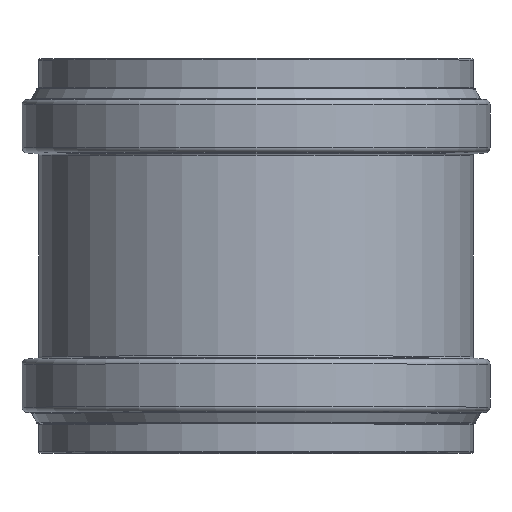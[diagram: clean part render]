
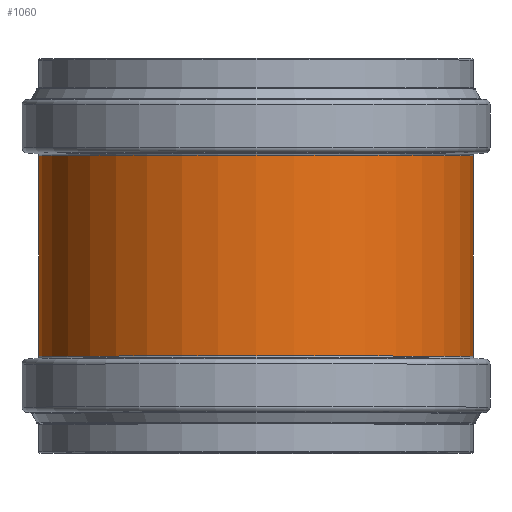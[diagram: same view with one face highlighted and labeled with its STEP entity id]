
A CAD part, top view. The second image highlights one B-rep face of the part: STEP entity #1060.
In plain terms, the highlighted cylindrical face has radius 167.35 mm (diameter 334.7 mm), a full revolution.
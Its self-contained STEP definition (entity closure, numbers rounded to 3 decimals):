
#60=LINE('',#1991,#88);
#88=VECTOR('',#1629,167.35);
#104=CYLINDRICAL_SURFACE('',#1249,167.35);
#152=FACE_OUTER_BOUND('',#215,.T.);
#215=EDGE_LOOP('',(#902,#903,#904,#905,#906,#907));
#335=CIRCLE('',#1247,167.35);
#336=CIRCLE('',#1248,167.35);
#337=CIRCLE('',#1250,167.35);
#338=CIRCLE('',#1251,167.35);
#454=VERTEX_POINT('',#1981);
#455=VERTEX_POINT('',#1983);
#456=VERTEX_POINT('',#1987);
#457=VERTEX_POINT('',#1988);
#608=EDGE_CURVE('',#455,#454,#335,.T.);
#609=EDGE_CURVE('',#454,#455,#336,.T.);
#610=EDGE_CURVE('',#456,#457,#337,.T.);
#611=EDGE_CURVE('',#457,#456,#338,.T.);
#612=EDGE_CURVE('',#457,#455,#60,.T.);
#902=ORIENTED_EDGE('',*,*,#610,.F.);
#903=ORIENTED_EDGE('',*,*,#611,.F.);
#904=ORIENTED_EDGE('',*,*,#612,.T.);
#905=ORIENTED_EDGE('',*,*,#608,.T.);
#906=ORIENTED_EDGE('',*,*,#609,.T.);
#907=ORIENTED_EDGE('',*,*,#612,.F.);
#1060=ADVANCED_FACE('',(#152),#104,.T.);
#1247=AXIS2_PLACEMENT_3D('',#1984,#1619,#1620);
#1248=AXIS2_PLACEMENT_3D('',#1985,#1621,#1622);
#1249=AXIS2_PLACEMENT_3D('',#1986,#1623,#1624);
#1250=AXIS2_PLACEMENT_3D('',#1989,#1625,#1626);
#1251=AXIS2_PLACEMENT_3D('',#1990,#1627,#1628);
#1619=DIRECTION('center_axis',(0.,1.,0.));
#1620=DIRECTION('ref_axis',(1.,0.,0.));
#1621=DIRECTION('center_axis',(0.,1.,0.));
#1622=DIRECTION('ref_axis',(1.,0.,0.));
#1623=DIRECTION('center_axis',(0.,1.,0.));
#1624=DIRECTION('ref_axis',(-1.,0.,0.));
#1625=DIRECTION('center_axis',(0.,1.,0.));
#1626=DIRECTION('ref_axis',(1.,0.,0.));
#1627=DIRECTION('center_axis',(0.,1.,0.));
#1628=DIRECTION('ref_axis',(1.,0.,0.));
#1629=DIRECTION('',(0.,-1.,0.));
#1981=CARTESIAN_POINT('',(0.,-77.32,-167.35));
#1983=CARTESIAN_POINT('',(167.35,-77.32,0.));
#1984=CARTESIAN_POINT('Origin',(0.,-77.32,0.));
#1985=CARTESIAN_POINT('Origin',(0.,-77.32,0.));
#1986=CARTESIAN_POINT('Origin',(0.,0.,0.));
#1987=CARTESIAN_POINT('',(0.,77.32,-167.35));
#1988=CARTESIAN_POINT('',(167.35,77.32,0.));
#1989=CARTESIAN_POINT('Origin',(0.,77.32,0.));
#1990=CARTESIAN_POINT('Origin',(0.,77.32,0.));
#1991=CARTESIAN_POINT('',(167.35,0.,0.));
